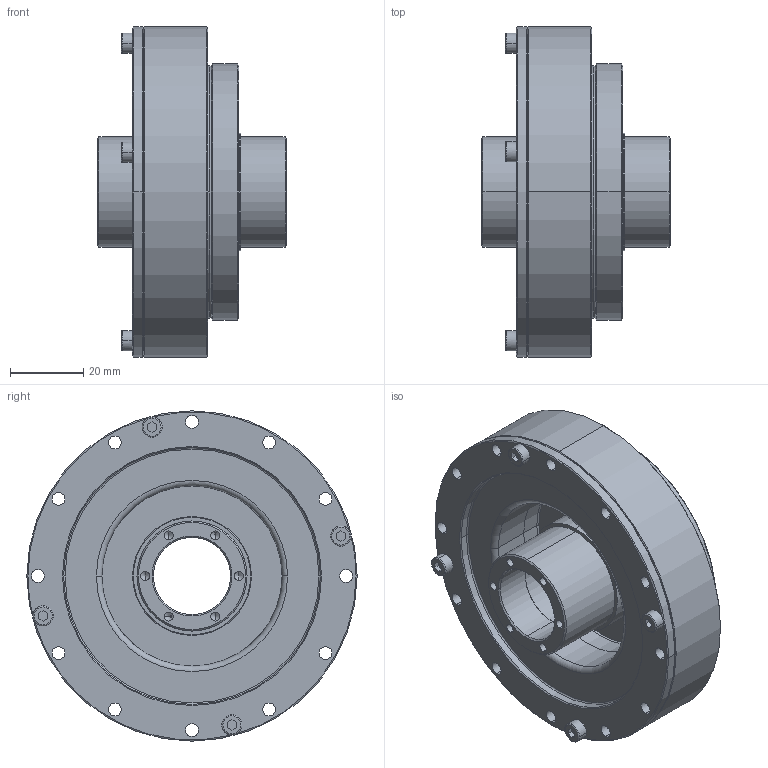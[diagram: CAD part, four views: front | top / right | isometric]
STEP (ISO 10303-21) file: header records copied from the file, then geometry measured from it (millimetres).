
FILE_DESCRIPTION(('STEP AP214'),'1');
FILE_NAME('cctmp_A14E5C49-474E-48AA-9E26-773AF729BFE6_2025_03_06_11_20_52_0180_102640..stp','2025-03-06T10:20:52',('HIWIN GmbH'),('CADClick - www.CADClick.com'),'Spatial InterOp 3D',' ','unknown authorization');
FILE_SCHEMA(('AUTOMOTIVE_DESIGN'));
Length unit declared in the file: millimetre
Products named in the file (2): DSH-20-XX-PH_FILE; 2025_03_06_11_20_52_0180
Assembly tree (1 placements, depth 2):
  DSH-20-XX-PH_FILE
    2025_03_06_11_20_52_0180
Bounding box: 51.5 x 90 x 90 mm (x, y, z)
Volume: 127032.1 mm3; surface area: 37277.9 mm2
Topology: 1 solids, 1 shells, 397 faces, 988 edges, 612 vertices
Faces by surface type: cylinder 172, plane 105, cone 92, torus 28
Entity records: 14886 total; most frequent: DIRECTION 2254, CARTESIAN_POINT 1943, ORIENTED_EDGE 1864, EDGE_CURVE 932, AXIS2_PLACEMENT_3D 923, VERTEX_POINT 612, CIRCLE 524, EDGE_LOOP 498
